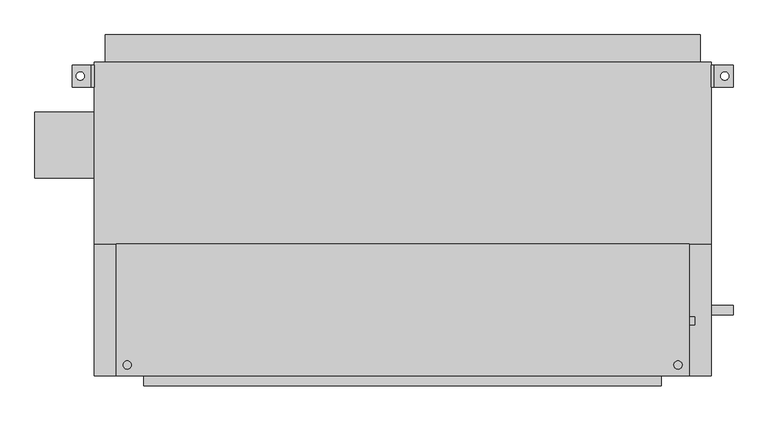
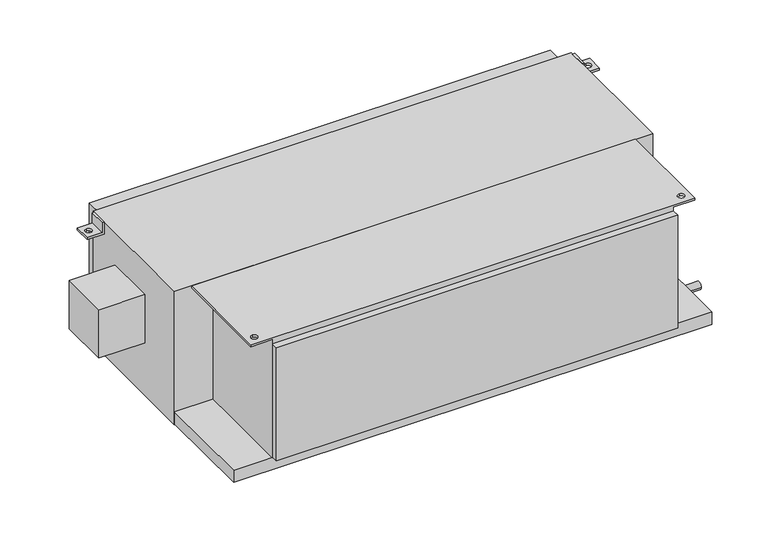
"""IFC4 building model written with IfcOpenShell, lengths in millimetres: proxy geometry, Concealed_High_Capacity_Horizontal_Fan_Coil_Unit_With_Plenum_-_42DCA_-_CARRIER_-_2-Pipe_Cool-EHeat_RH_2022 : Size 20 - 277v/60Hz/1Ph - 6 Row 14.0kW."""

from ifc_helpers import new_model, si_unit, point, frame, frame_2d, origin, place, context, project, spatial, polyline, circle_curve, trimmed, segment, composite_curve, outline, extrude, source, transform, mapped, element, save
from ifc_brep_helpers import plane_surface, revolved_surface, advanced_brep


def mechanical_equipment_d10e933b(model_context):
    return source(origin(), model_context, "Body", "SolidModel", [
        advanced_brep(
        [(-558.8, 327.025, -38.1), (-609.6, 327.025, -38.1), (-609.6, 327.025, -31.75), (-565.15, 327.025, -31.75), (-565.15, 327.025, 0.0), (-558.8, 327.025, 0.0), (-558.8, 276.225, -38.1), (-558.8, 276.225, 0.0), (-565.15, 276.225, 0.0), (-565.15, 276.225, -31.75), (-609.6, 276.225, -31.75), (-609.6, 276.225, -38.1), (-590.55, 292.1, -38.1), (-590.55, 311.15, -38.1), (-590.55, 311.15, -31.75), (-590.55, 292.1, -31.75)],
        [
            (0, 1),
            (1, 2),
            (2, 3),
            (3, 4),
            (4, 5),
            (5, 0),
            (6, 7),
            (7, 8),
            (8, 9),
            (9, 10),
            (10, 11),
            (11, 6),
            (0, 6),
            (11, 1),
            (12, 13, circle_curve(frame((-590.55, 301.625, -38.1), z_axis=(0.0, 0.0, 1.0), x_axis=(0.0, -1.0, 0.0)), 9.525)),
            (13, 12, circle_curve(frame((-590.55, 301.625, -38.1), z_axis=(0.0, 0.0, 1.0), x_axis=(0.0, -1.0, 0.0)), 9.525)),
            (10, 2),
            (9, 3),
            (14, 15, circle_curve(frame((-590.55, 301.625, -31.75), z_axis=(0.0, 0.0, -1.0), x_axis=(0.0, -1.0, 0.0)), 9.525)),
            (15, 14, circle_curve(frame((-590.55, 301.625, -31.75), z_axis=(0.0, 0.0, -1.0), x_axis=(0.0, -1.0, 0.0)), 9.525)),
            (8, 4),
            (7, 5),
            (14, 13),
            (12, 15),
        ],
        [
            plane_surface(frame((-558.8, 327.025, -38.1), z_axis=(0.0, 1.0, 0.0), x_axis=(-1.0, 0.0, 0.0))),
            plane_surface(frame((-558.8, 276.225, -38.1), z_axis=(0.0, -1.0, 0.0), x_axis=(1.0, 0.0, 0.0))),
            plane_surface(frame((-558.8, 327.025, -38.1), z_axis=(0.0, 0.0, -1.0), x_axis=(0.0, -1.0, 0.0))),
            plane_surface(frame((-609.6, 327.025, -38.1), z_axis=(-1.0, 0.0, 0.0), x_axis=(0.0, -1.0, 0.0))),
            plane_surface(frame((-609.6, 327.025, -31.75), z_axis=(0.0, 0.0, 1.0), x_axis=(0.0, -1.0, 0.0))),
            plane_surface(frame((-565.15, 327.025, -31.75), z_axis=(-1.0, 0.0, 0.0), x_axis=(0.0, -1.0, 0.0))),
            plane_surface(frame((-565.15, 327.025, 0.0), z_axis=(0.0, 0.0, 1.0), x_axis=(0.0, -1.0, 0.0))),
            plane_surface(frame((-558.8, 327.025, 0.0), z_axis=(1.0, 0.0, 0.0), x_axis=(0.0, -1.0, 0.0))),
            revolved_surface(polyline([(-590.55, 292.1, -38.1), (-590.55, 292.1, -31.75)]), (-590.55, 301.625, -31.75), (0.0, 0.0, -1.0)),
        ],
        [
            (0, [[1, 2, 3, 4, 5, 6]]),
            (1, [[7, 8, 9, 10, 11, 12]]),
            (2, [[-1, 13, -12, 14], [15, 16]]),
            (3, [[-2, -14, -11, 17]]),
            (4, [[-3, -17, -10, 18], [19, 20]]),
            (5, [[-4, -18, -9, 21]]),
            (6, [[-5, -21, -8, 22]]),
            (7, [[-6, -22, -7, -13]]),
            (8, [[23, -15, 24, -19]]),
            (8, [[-23, -20, -24, -16]]),
        ],
    ),
        advanced_brep(
        [(863.6, 327.025, -38.1), (863.6, 327.025, 0.0), (869.95, 327.025, 0.0), (869.95, 327.025, -31.75), (914.4, 327.025, -31.75), (914.4, 327.025, -38.1), (863.6, 276.225, -38.1), (914.4, 276.225, -38.1), (914.4, 276.225, -31.75), (869.95, 276.225, -31.75), (869.95, 276.225, 0.0), (863.6, 276.225, 0.0), (895.35, 311.15, -31.75), (895.35, 292.1, -31.75), (895.35, 292.1, -38.1), (895.35, 311.15, -38.1)],
        [
            (0, 1),
            (1, 2),
            (2, 3),
            (3, 4),
            (4, 5),
            (5, 0),
            (6, 7),
            (7, 8),
            (8, 9),
            (9, 10),
            (10, 11),
            (11, 6),
            (0, 6),
            (11, 1),
            (10, 2),
            (9, 3),
            (8, 4),
            (12, 13, circle_curve(frame((895.35, 301.625, -31.75), z_axis=(0.0, 0.0, -1.0), x_axis=(0.0, -1.0, 0.0)), 9.525)),
            (13, 12, circle_curve(frame((895.35, 301.625, -31.75), z_axis=(0.0, 0.0, -1.0), x_axis=(0.0, -1.0, 0.0)), 9.525)),
            (7, 5),
            (14, 15, circle_curve(frame((895.35, 301.625, -38.1), z_axis=(0.0, 0.0, 1.0), x_axis=(0.0, -1.0, 0.0)), 9.525)),
            (15, 14, circle_curve(frame((895.35, 301.625, -38.1), z_axis=(0.0, 0.0, 1.0), x_axis=(0.0, -1.0, 0.0)), 9.525)),
            (12, 15),
            (14, 13),
        ],
        [
            plane_surface(frame((-558.8, 327.025, -38.1), z_axis=(0.0, 1.0, 0.0), x_axis=(-1.0, 0.0, 0.0))),
            plane_surface(frame((-558.8, 276.225, -38.1), z_axis=(0.0, -1.0, 0.0), x_axis=(1.0, 0.0, 0.0))),
            plane_surface(frame((863.6, 327.025, -38.1), z_axis=(-1.0, 0.0, 0.0), x_axis=(0.0, -1.0, 0.0))),
            plane_surface(frame((863.6, 327.025, 0.0), z_axis=(0.0, 0.0, 1.0), x_axis=(0.0, -1.0, 0.0))),
            plane_surface(frame((869.95, 327.025, 0.0), z_axis=(1.0, 0.0, 0.0), x_axis=(0.0, -1.0, 0.0))),
            plane_surface(frame((869.95, 327.025, -31.75), z_axis=(0.0, 0.0, 1.0), x_axis=(0.0, -1.0, 0.0))),
            plane_surface(frame((914.4, 327.025, -31.75), z_axis=(1.0, 0.0, 0.0), x_axis=(0.0, -1.0, 0.0))),
            plane_surface(frame((914.4, 327.025, -38.1), z_axis=(0.0, 0.0, -1.0), x_axis=(0.0, -1.0, 0.0))),
            revolved_surface(polyline([(895.35, 292.1, -38.1), (895.35, 292.1, -31.75)]), (895.35, 301.625, -31.75), (0.0, 0.0, -1.0)),
        ],
        [
            (0, [[1, 2, 3, 4, 5, 6]]),
            (1, [[7, 8, 9, 10, 11, 12]]),
            (2, [[-1, 13, -12, 14]]),
            (3, [[-2, -14, -11, 15]]),
            (4, [[-3, -15, -10, 16]]),
            (5, [[-4, -16, -9, 17], [18, 19]]),
            (6, [[-5, -17, -8, 20]]),
            (7, [[-6, -20, -7, -13], [21, 22]]),
            (8, [[23, -21, 24, -18]]),
            (8, [[-23, -19, -24, -22]]),
        ],
    ),
        advanced_brep(
        [(749.3, -85.725, -377.825), (749.3, -390.525, -377.825), (-444.5, -390.525, -377.825), (-444.5, -85.725, -377.825), (-444.5, -390.525, -6.35), (-444.5, -85.725, -6.35), (749.3, -85.725, -6.35), (749.3, -390.525, -6.35), (-508.0, -85.725, -6.35), (-508.0, -390.525, -6.35), (-482.6, -355.6, -6.35), (-482.6, -374.65, -6.35), (812.8, -85.725, -6.35), (812.8, -390.525, -6.35), (787.4, -355.6, -6.35), (787.4, -374.65, -6.35), (-508.0, -85.725, 0.0), (-508.0, -390.525, 0.0), (812.8, -390.525, 0.0), (812.8, -85.725, 0.0), (-482.6, -374.65, 0.0), (-482.6, -355.6, 0.0), (787.4, -374.65, 0.0), (787.4, -355.6, 0.0)],
        [
            (0, 1),
            (1, 2),
            (2, 3),
            (3, 0),
            (2, 4),
            (4, 5),
            (5, 3),
            (0, 6),
            (6, 7),
            (7, 1),
            (8, 5),
            (4, 9),
            (9, 8),
            (10, 11, circle_curve(frame((-482.6, -365.125, -6.35), z_axis=(0.0, 0.0, 1.0), x_axis=(0.0, 1.0, 0.0)), 9.525)),
            (11, 10, circle_curve(frame((-482.6, -365.125, -6.35), z_axis=(0.0, 0.0, 1.0), x_axis=(0.0, 1.0, 0.0)), 9.525)),
            (12, 13),
            (13, 7),
            (6, 12),
            (14, 15, circle_curve(frame((787.4, -365.125, -6.35), z_axis=(0.0, 0.0, 1.0), x_axis=(0.0, 1.0, 0.0)), 9.525)),
            (15, 14, circle_curve(frame((787.4, -365.125, -6.35), z_axis=(0.0, 0.0, 1.0), x_axis=(0.0, 1.0, 0.0)), 9.525)),
            (16, 17),
            (17, 18),
            (18, 19),
            (19, 16),
            (20, 21, circle_curve(frame((-482.6, -365.125, 0.0), z_axis=(0.0, 0.0, -1.0), x_axis=(0.0, 1.0, 0.0)), 9.525)),
            (21, 20, circle_curve(frame((-482.6, -365.125, 0.0), z_axis=(0.0, 0.0, -1.0), x_axis=(0.0, 1.0, 0.0)), 9.525)),
            (22, 23, circle_curve(frame((787.4, -365.125, 0.0), z_axis=(0.0, 0.0, -1.0), x_axis=(0.0, 1.0, 0.0)), 9.525)),
            (23, 22, circle_curve(frame((787.4, -365.125, 0.0), z_axis=(0.0, 0.0, -1.0), x_axis=(0.0, 1.0, 0.0)), 9.525)),
            (9, 17),
            (16, 8),
            (13, 18),
            (19, 12),
            (20, 11),
            (10, 21),
            (22, 15),
            (14, 23),
        ],
        [
            plane_surface(frame((-444.5, -85.725, -377.825), z_axis=(0.0, 0.0, -1.0), x_axis=(1.0, 0.0, 0.0))),
            plane_surface(frame((-444.5, -85.725, 0.0), z_axis=(-1.0, 0.0, 0.0), x_axis=(0.0, 0.0, -1.0))),
            plane_surface(frame((749.3, -390.525, 0.0), z_axis=(1.0, 0.0, 0.0), x_axis=(0.0, 0.0, -1.0))),
            plane_surface(frame((-508.0, -85.725, -6.35), z_axis=(0.0, 0.0, -1.0), x_axis=(0.0, 1.0, 0.0))),
            plane_surface(frame((-508.0, -85.725, 0.0), z_axis=(0.0, 0.0, 1.0), x_axis=(0.0, -1.0, 0.0))),
            plane_surface(frame((-508.0, -85.725, 0.0), z_axis=(-1.0, 0.0, 0.0), x_axis=(0.0, 0.0, -1.0))),
            plane_surface(frame((-508.0, -390.525, 0.0), z_axis=(0.0, -1.0, 0.0), x_axis=(0.0, 0.0, -1.0))),
            plane_surface(frame((-444.5, -85.725, 0.0), z_axis=(0.0, 1.0, 0.0), x_axis=(0.0, 0.0, -1.0))),
            plane_surface(frame((812.8, -390.525, 0.0), z_axis=(1.0, 0.0, 0.0), x_axis=(0.0, 0.0, -1.0))),
            revolved_surface(polyline([(-482.6, -355.6, -6.35), (-482.6, -355.6, 0.0)]), (-482.6, -365.125, 0.0), (0.0, 0.0, -1.0)),
            revolved_surface(polyline([(787.4, -355.6, -6.35), (787.4, -355.6, 0.0)]), (787.4, -365.125, 0.0), (0.0, 0.0, -1.0)),
        ],
        [
            (0, [[1, 2, 3, 4]]),
            (1, [[-3, 5, 6, 7]]),
            (2, [[-1, 8, 9, 10]]),
            (3, [[11, -6, 12, 13], [14, 15]]),
            (3, [[16, 17, -9, 18], [19, 20]]),
            (4, [[21, 22, 23, 24], [25, 26], [27, 28]]),
            (5, [[-13, 29, -21, 30]]),
            (6, [[-12, -5, -2, -10, -17, 31, -22, -29]]),
            (7, [[-11, -30, -24, 32, -18, -8, -4, -7]]),
            (8, [[-16, -32, -23, -31]]),
            (9, [[33, -14, 34, -25]]),
            (9, [[-33, -26, -34, -15]]),
            (10, [[35, -19, 36, -27]]),
            (10, [[-35, -28, -36, -20]]),
        ],
    ),
        extrude(outline(polyline([(-533.4, 396.875), (838.2, 396.875), (838.2, 333.375), (-533.4, 333.375), (-533.4, 396.875)])), frame((0.0, 0.0, -381.0), z_axis=(0.0, 0.0, 1.0), x_axis=(1.0, 0.0, 0.0)), (0.0, 0.0, 1.0), 358.775),
        extrude(outline(composite_curve([segment(trimmed(circle_curve(frame_2d((-263.525, -76.2)), 9.525), [point((-254.0, -76.2))], [point((-273.05, -76.2))], False, "CARTESIAN"), True, "CONTINUOUS"), segment(trimmed(circle_curve(frame_2d((-263.525, -76.2)), 9.525), [point((-273.05, -76.2))], [point((-254.0, -76.2))], False, "CARTESIAN"), True, "CONTINUOUS")], self_intersect=False)), frame((749.3, 0.0, 0.0), z_axis=(1.0, 0.0, 0.0), x_axis=(0.0, 1.0, 0.0)), (0.0, 0.0, 1.0), 76.2),
        extrude(outline(composite_curve([segment(trimmed(circle_curve(frame_2d((-263.525, -301.625)), 9.525), [point((-254.0, -301.625))], [point((-273.05, -301.625))], False, "CARTESIAN"), True, "CONTINUOUS"), segment(trimmed(circle_curve(frame_2d((-263.525, -301.625)), 9.525), [point((-273.05, -301.625))], [point((-254.0, -301.625))], False, "CARTESIAN"), True, "CONTINUOUS")], self_intersect=False)), frame((749.3, 0.0, 0.0), z_axis=(1.0, 0.0, 0.0), x_axis=(0.0, 1.0, 0.0)), (0.0, 0.0, 1.0), 76.2),
        extrude(outline(composite_curve([segment(trimmed(circle_curve(frame_2d((-238.125, -403.225)), 11.1125), [point((-227.0125, -403.225))], [point((-249.2375, -403.225))], False, "CARTESIAN"), True, "CONTINUOUS"), segment(trimmed(circle_curve(frame_2d((-238.125, -403.225)), 11.1125), [point((-249.2375, -403.225))], [point((-227.0125, -403.225))], False, "CARTESIAN"), True, "CONTINUOUS")], self_intersect=False)), frame((863.6, 0.0, 0.0), z_axis=(1.0, 0.0, 0.0), x_axis=(0.0, 1.0, 0.0)), (0.0, 0.0, 1.0), 50.8),
        extrude(outline(polyline([(-695.325, 66.675), (-695.325, 219.075), (-558.8, 219.075), (-558.8, 66.675), (-695.325, 66.675)])), frame((0.0, 0.0, -254.0), z_axis=(0.0, 0.0, 1.0), x_axis=(1.0, 0.0, 0.0)), (0.0, 0.0, 1.0), 152.4),
        extrude(outline(polyline([(749.3, -412.75), (-444.5, -412.75), (-444.5, -390.525), (749.3, -390.525), (749.3, -412.75)])), frame((0.0, 0.0, -374.65), z_axis=(0.0, 0.0, 1.0), x_axis=(1.0, 0.0, 0.0)), (0.0, 0.0, 1.0), 355.6),
        extrude(outline(polyline([(863.6, -85.725), (-558.8, -85.725), (-558.8, 333.375), (863.6, 333.375), (863.6, -85.725)])), frame((0.0, 0.0, -419.1), z_axis=(0.0, 0.0, 1.0), x_axis=(1.0, 0.0, 0.0)), (0.0, 0.0, 1.0), 419.1),
        extrude(outline(polyline([(863.6, -85.725), (863.6, -390.525), (-558.8, -390.525), (-558.8, -85.725), (863.6, -85.725)])), frame((0.0, 0.0, -415.925), z_axis=(0.0, 0.0, 1.0), x_axis=(1.0, 0.0, 0.0)), (0.0, 0.0, 1.0), 38.1),
    ])


if __name__ == "__main__":
    model = new_model("IFC4")
    model_context = context("Model", 3, world=origin())
    ifc_project = project(units=[si_unit("LENGTHUNIT", "METRE", prefix="MILLI")], contexts=[model_context])
    site = spatial("IfcSite", under=ifc_project)
    building = spatial("IfcBuilding", under=site)
    placement = place(None, origin())
    mechanical_equipment_shape = mechanical_equipment_d10e933b(model_context)
    element("IfcBuildingElementProxy", 1, Name="Concealed_High_Capacity_Horizontal_Fan_Coil_Unit_With_Plenum_-_42DCA_-_CARRIER_-_2-Pipe_Cool-EHeat_RH_2022 : Size 20 - 277v/60Hz/1Ph - 6 Row 14.0kW", ObjectType="Concealed_High_Capacity_Horizontal_Fan_Coil_Unit_With_Plenum_-_42DCA_-_CARRIER_-_2-Pipe_Cool-EHeat_RH_2022 : Size 20 - 277v/60Hz/1Ph - 6 Row 14.0kW", at=placement, inside=building, context=model_context, shape_type="MappedRepresentation", body=[
        mapped(mechanical_equipment_shape, transform((0.0, 0.0, 0.0), x_axis=(1.0, 0.0, 0.0), y_axis=(0.0, 1.0, 0.0), z_axis=(0.0, 0.0, 1.0))),
    ])
    save(model, "model.ifc")
